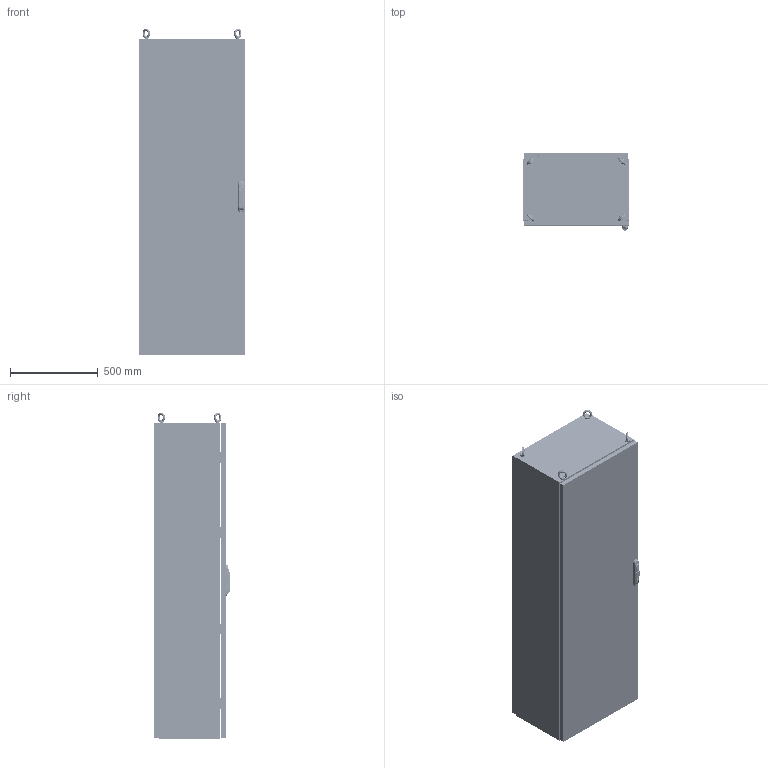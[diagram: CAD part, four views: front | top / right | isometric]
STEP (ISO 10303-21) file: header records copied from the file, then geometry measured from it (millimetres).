
FILE_DESCRIPTION(/* description */ ('Unknown'),/* implementation_level */ '2;1');
FILE_NAME(/* name */ 'FCA06018040',/* time_stamp */ '2024-12-12T08:38:11+01:00',/* author */ ('Unknown'),/* organization */ ('Unknown'),/* preprocessor_version */ 'ST-DEVELOPER v19.4',/* originating_system */ 'Solid Edge',/* authorisation */ 'Unknown');
FILE_SCHEMA (('CONFIG_CONTROL_DESIGN'));
Length unit declared in the file: millimetre
Products named in the file (60): FCA06018040; F000X003.27; F0000000.85; F000X003.29; F0000002.10; F0000000.55; F0000000.02; F000X003.28; F0000002.11; AE00500.10; AE00715.01; AE00219.03; F000X002.06; F000X002.07; F0000001.47; F0000000.07; AE00100.03_oa_0; AE00100.03_oa_1; AE00100.03_oa_2; AE00100.03_oa_3; F000X000.12_oa_4; F000X000.17_oa_5; F0000000.20; 38790003.14_oa_6; F000X000.18; F0000000.21; 38790003.14_oa_7; F000X000.19_oa_8; AE00217.25; AE00309.01; F000X000.20_oa_9; AE00368.00; AE00219.00; AE00224.00; AE00198.03; M0000000.37; F0000001.24; AE00701.03; F0000000.13; F0000000.08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
Assembly tree (209 placements, depth 5):
  FCA06018040
    F000X003.27
      F0000000.85  x2
      F000X003.29
        F0000002.10
        F0000000.55  x2
        F0000000.02  x4
      F000X003.28
        F0000002.11
        F0000000.55  x2
        F0000000.02  x4
      AE00500.10  x32
    AE00715.01  x4
    AE00219.03  x8
    F000X002.06
      F000X002.07
        F0000001.47
      F0000000.07  x2
      AE00100.03_oa_0
      AE00100.03_oa_1
      AE00100.03_oa_2
      AE00100.03_oa_3
    F000X000.12_oa_4
      F000X000.17_oa_5
        F0000000.20
        38790003.14_oa_6
      F000X000.18
        F0000000.21
        38790003.14_oa_7
      F000X000.19_oa_8
        F0000000.21
        AE00217.25
        AE00309.01
      F000X000.20_oa_9
        F0000000.20
        AE00217.25
        AE00309.01
      AE00368.00  x8
      AE00219.00  x8
      AE00224.00  x2
    AE00198.03  x16
    M0000000.37  x8
    F0000001.24  x4
    AE00701.03  x4
    F0000000.13  x4
    F0000000.08  x4
    F000X002.33
      F000X002.34
        F000X002.35
          F0000001.64
        F000X001.09
          F0000002.21  x2
          F0000002.15  x2
          AE01400.01  x4
        AE00413.05  x4
        AE00417.01  x2
      F0000000.12  x8
      AE00222.15  x8
      AE00316.01  x8
      AE00992.10_oa_10
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Bounding box: 600 x 438.2 x 1857.44 mm (x, y, z)
Volume: 12850415.1 mm3; surface area: 10182980 mm2
Topology: 214 solids, 214 shells, 5957 faces, 15574 edges, 10065 vertices
Faces by surface type: plane 3638, cylinder 1645, cone 446, sphere 136, torus 78, bspline 14
Full cylindrical faces by diameter (mm): 2 x4, 3 x1, 3.242 x2, 4 x12, 4.134 x5, 4.25 x166, 4.5 x164, 4.917 x57, 4.918 x8, 5 x6, 6 x66, 6.1 x20, 6.2 x8, 6.5 x28, 6.647 x4, 7.5 x2, 7.8 x2, 8 x8, 8.25 x4, 8.3 x8, 8.5 x2, 9 x32, 10 x2, 10.106 x8, 10.5 x24, 11.8 x8, 12 x24, 14 x1, 16 x1, 17 x3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
Entity records: 50824 total; most frequent: CARTESIAN_POINT 8849, DIRECTION 7825, ORIENTED_EDGE 7274, EDGE_CURVE 3637, AXIS2_PLACEMENT_3D 2639, LINE 2547, VECTOR 2547, VERTEX_POINT 2541
